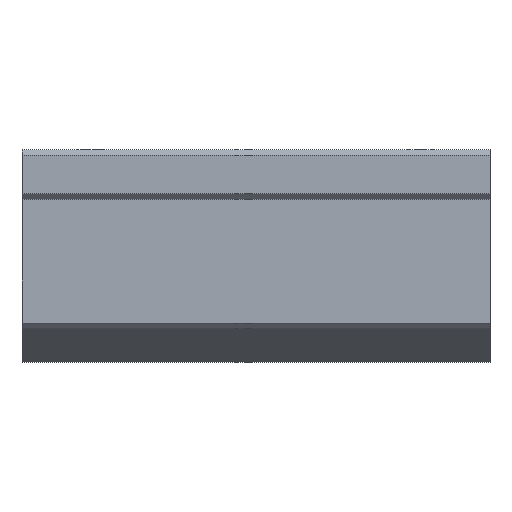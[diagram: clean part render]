
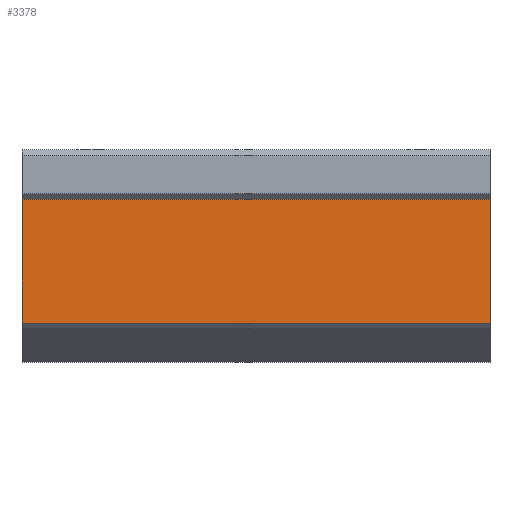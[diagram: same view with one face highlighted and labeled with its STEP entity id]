
A CAD part, top view. The second image highlights one B-rep face of the part: STEP entity #3378.
In plain terms, the highlighted planar face has unit normal (0, 0, 1).
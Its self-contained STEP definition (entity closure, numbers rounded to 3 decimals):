
#106 = PLANE('',#107);
#107 = AXIS2_PLACEMENT_3D('',#108,#109,#110);
#108 = CARTESIAN_POINT('',(42.5,1.889,0.));
#109 = DIRECTION('',(1.,0.,0.));
#110 = DIRECTION('',(0.,0.,-1.));
#170 = PLANE('',#171);
#171 = AXIS2_PLACEMENT_3D('',#172,#173,#174);
#172 = CARTESIAN_POINT('',(-42.5,1.889,0.));
#173 = DIRECTION('',(1.,0.,0.));
#174 = DIRECTION('',(0.,0.,-1.));
#3269 = PLANE('',#3270);
#3270 = AXIS2_PLACEMENT_3D('',#3271,#3272,#3273);
#3271 = CARTESIAN_POINT('',(-42.5,-13.,23.5));
#3272 = DIRECTION('',(0.,-0.707,0.707)
  );
#3273 = DIRECTION('',(0.,-0.707,-0.707)
  );
#3307 = VERTEX_POINT('',#3308);
#3308 = CARTESIAN_POINT('',(42.5,-12.5,24.));
#3329 = EDGE_CURVE('',#3330,#3307,#3332,.T.);
#3330 = VERTEX_POINT('',#3331);
#3331 = CARTESIAN_POINT('',(-42.5,-12.5,24.));
#3332 = SURFACE_CURVE('',#3333,(#3337,#3344),.PCURVE_S1.);
#3333 = LINE('',#3334,#3335);
#3334 = CARTESIAN_POINT('',(-42.5,-12.5,24.));
#3335 = VECTOR('',#3336,1.);
#3336 = DIRECTION('',(1.,0.,0.));
#3337 = PCURVE('',#3269,#3338);
#3338 = DEFINITIONAL_REPRESENTATION('',(#3339),#3343);
#3339 = LINE('',#3340,#3341);
#3340 = CARTESIAN_POINT('',(-0.707,0.));
#3341 = VECTOR('',#3342,1.);
#3342 = DIRECTION('',(0.,1.));
#3343 = ( GEOMETRIC_REPRESENTATION_CONTEXT(2) 
PARAMETRIC_REPRESENTATION_CONTEXT() REPRESENTATION_CONTEXT('2D SPACE',''
  ) );
#3344 = PCURVE('',#3345,#3350);
#3345 = PLANE('',#3346);
#3346 = AXIS2_PLACEMENT_3D('',#3347,#3348,#3349);
#3347 = CARTESIAN_POINT('',(-42.5,-1.25,24.));
#3348 = DIRECTION('',(0.,0.,1.));
#3349 = DIRECTION('',(0.,-1.,0.));
#3350 = DEFINITIONAL_REPRESENTATION('',(#3351),#3355);
#3351 = LINE('',#3352,#3353);
#3352 = CARTESIAN_POINT('',(11.25,0.));
#3353 = VECTOR('',#3354,1.);
#3354 = DIRECTION('',(0.,1.));
#3355 = ( GEOMETRIC_REPRESENTATION_CONTEXT(2) 
PARAMETRIC_REPRESENTATION_CONTEXT() REPRESENTATION_CONTEXT('2D SPACE',''
  ) );
#3378 = ADVANCED_FACE('',(#3379),#3345,.T.);
#3379 = FACE_BOUND('',#3380,.T.);
#3380 = EDGE_LOOP('',(#3381,#3404,#3432,#3453));
#3381 = ORIENTED_EDGE('',*,*,#3382,.T.);
#3382 = EDGE_CURVE('',#3307,#3383,#3385,.T.);
#3383 = VERTEX_POINT('',#3384);
#3384 = CARTESIAN_POINT('',(42.5,10.,24.));
#3385 = SURFACE_CURVE('',#3386,(#3390,#3397),.PCURVE_S1.);
#3386 = LINE('',#3387,#3388);
#3387 = CARTESIAN_POINT('',(42.5,10.,24.));
#3388 = VECTOR('',#3389,1.);
#3389 = DIRECTION('',(0.,1.,0.));
#3390 = PCURVE('',#3345,#3391);
#3391 = DEFINITIONAL_REPRESENTATION('',(#3392),#3396);
#3392 = LINE('',#3393,#3394);
#3393 = CARTESIAN_POINT('',(-11.25,85.));
#3394 = VECTOR('',#3395,1.);
#3395 = DIRECTION('',(-1.,0.));
#3396 = ( GEOMETRIC_REPRESENTATION_CONTEXT(2) 
PARAMETRIC_REPRESENTATION_CONTEXT() REPRESENTATION_CONTEXT('2D SPACE',''
  ) );
#3397 = PCURVE('',#106,#3398);
#3398 = DEFINITIONAL_REPRESENTATION('',(#3399),#3403);
#3399 = LINE('',#3400,#3401);
#3400 = CARTESIAN_POINT('',(-24.,8.111));
#3401 = VECTOR('',#3402,1.);
#3402 = DIRECTION('',(0.,1.));
#3403 = ( GEOMETRIC_REPRESENTATION_CONTEXT(2) 
PARAMETRIC_REPRESENTATION_CONTEXT() REPRESENTATION_CONTEXT('2D SPACE',''
  ) );
#3404 = ORIENTED_EDGE('',*,*,#3405,.F.);
#3405 = EDGE_CURVE('',#3406,#3383,#3408,.T.);
#3406 = VERTEX_POINT('',#3407);
#3407 = CARTESIAN_POINT('',(-42.5,10.,24.));
#3408 = SURFACE_CURVE('',#3409,(#3413,#3420),.PCURVE_S1.);
#3409 = LINE('',#3410,#3411);
#3410 = CARTESIAN_POINT('',(-42.5,10.,24.));
#3411 = VECTOR('',#3412,1.);
#3412 = DIRECTION('',(1.,0.,0.));
#3413 = PCURVE('',#3345,#3414);
#3414 = DEFINITIONAL_REPRESENTATION('',(#3415),#3419);
#3415 = LINE('',#3416,#3417);
#3416 = CARTESIAN_POINT('',(-11.25,0.));
#3417 = VECTOR('',#3418,1.);
#3418 = DIRECTION('',(0.,1.));
#3419 = ( GEOMETRIC_REPRESENTATION_CONTEXT(2) 
PARAMETRIC_REPRESENTATION_CONTEXT() REPRESENTATION_CONTEXT('2D SPACE',''
  ) );
#3420 = PCURVE('',#3421,#3426);
#3421 = PLANE('',#3422);
#3422 = AXIS2_PLACEMENT_3D('',#3423,#3424,#3425);
#3423 = CARTESIAN_POINT('',(-42.5,10.5,24.5));
#3424 = DIRECTION('',(0.,-0.707,0.707)
  );
#3425 = DIRECTION('',(0.,-0.707,-0.707)
  );
#3426 = DEFINITIONAL_REPRESENTATION('',(#3427),#3431);
#3427 = LINE('',#3428,#3429);
#3428 = CARTESIAN_POINT('',(0.707,0.));
#3429 = VECTOR('',#3430,1.);
#3430 = DIRECTION('',(0.,1.));
#3431 = ( GEOMETRIC_REPRESENTATION_CONTEXT(2) 
PARAMETRIC_REPRESENTATION_CONTEXT() REPRESENTATION_CONTEXT('2D SPACE',''
  ) );
#3432 = ORIENTED_EDGE('',*,*,#3433,.T.);
#3433 = EDGE_CURVE('',#3406,#3330,#3434,.T.);
#3434 = SURFACE_CURVE('',#3435,(#3439,#3446),.PCURVE_S1.);
#3435 = LINE('',#3436,#3437);
#3436 = CARTESIAN_POINT('',(-42.5,10.,24.));
#3437 = VECTOR('',#3438,1.);
#3438 = DIRECTION('',(0.,-1.,0.));
#3439 = PCURVE('',#3345,#3440);
#3440 = DEFINITIONAL_REPRESENTATION('',(#3441),#3445);
#3441 = LINE('',#3442,#3443);
#3442 = CARTESIAN_POINT('',(-11.25,0.));
#3443 = VECTOR('',#3444,1.);
#3444 = DIRECTION('',(1.,0.));
#3445 = ( GEOMETRIC_REPRESENTATION_CONTEXT(2) 
PARAMETRIC_REPRESENTATION_CONTEXT() REPRESENTATION_CONTEXT('2D SPACE',''
  ) );
#3446 = PCURVE('',#170,#3447);
#3447 = DEFINITIONAL_REPRESENTATION('',(#3448),#3452);
#3448 = LINE('',#3449,#3450);
#3449 = CARTESIAN_POINT('',(-24.,8.111));
#3450 = VECTOR('',#3451,1.);
#3451 = DIRECTION('',(0.,-1.));
#3452 = ( GEOMETRIC_REPRESENTATION_CONTEXT(2) 
PARAMETRIC_REPRESENTATION_CONTEXT() REPRESENTATION_CONTEXT('2D SPACE',''
  ) );
#3453 = ORIENTED_EDGE('',*,*,#3329,.T.);
